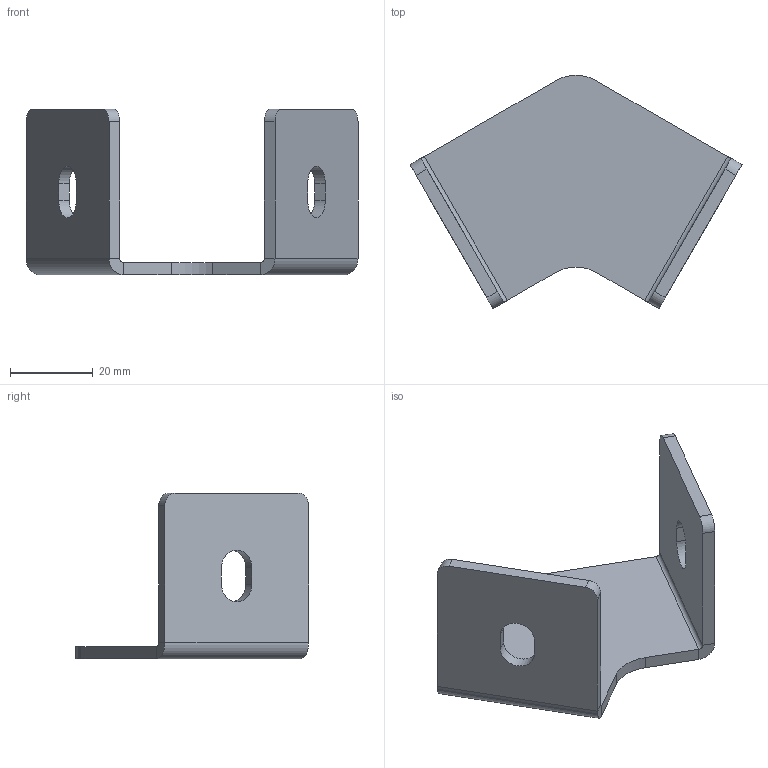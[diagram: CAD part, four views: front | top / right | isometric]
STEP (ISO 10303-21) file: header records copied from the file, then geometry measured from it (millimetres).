
FILE_DESCRIPTION (( 'STEP AP214' ), '1' );
FILE_NAME ('404060.STEP', '2018-02-21T12:18:36', ( '' ), ( '' ), 'SwSTEP 2.0', 'SolidWorks 2014', '' );
FILE_SCHEMA (( 'AUTOMOTIVE_DESIGN' ));
Length unit declared in the file: millimetre
Products named in the file (2): 404060
Bounding box: 80 x 56.19 x 40 mm (x, y, z)
Volume: 16368.7 mm3; surface area: 12185.6 mm2
Topology: 1 solids, 1 shells, 38 faces, 92 edges, 56 vertices
Faces by surface type: plane 24, cylinder 14
Entity records: 1153 total; most frequent: DIRECTION 200, CARTESIAN_POINT 188, ORIENTED_EDGE 184, EDGE_CURVE 92, AXIS2_PLACEMENT_3D 68, VECTOR 64, LINE 64, VERTEX_POINT 56
